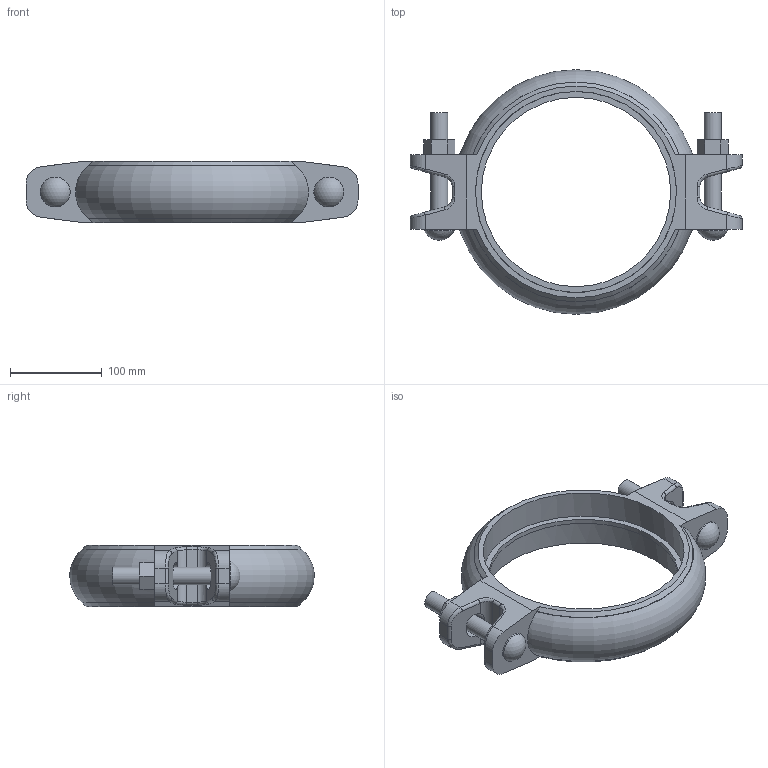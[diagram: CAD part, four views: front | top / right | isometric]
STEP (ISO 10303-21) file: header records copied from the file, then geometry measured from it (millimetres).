
FILE_DESCRIPTION(/* description */ ('QUICKVIC RIGID COUPLING FOR STEEL STYLE 107N','CAx-IF Rec.Pracs.---Representation and Presentation of Product Manufacturing Information (PMI)---4.0---2014-10-13'),/* implementation_level */ '2;1');
FILE_NAME(/* name */ 'C:\Users\Vjadhav\Desktop\CAD for Inventor\1\Coupling bolt thickness\107N\STEP\Victaulic_IPS_Coupling Rigid_Style 107N (OGS)\Victaulic_IPS_Coupling Rigid_Style 107N (OGS)_8 (200).stp',/* time_stamp */ '2022-03-28T14:19:43+06:00',/* author */ ('jheald'),/* organization */ ('Victaulic'),/* preprocessor_version */ 'ST-DEVELOPER v17.2',/* originating_system */ 'Autodesk Inventor 2019',/* authorisation */ '');
FILE_SCHEMA (('AP242_MANAGED_MODEL_BASED_3D_ENGINEERING_MIM_LF { 1 0 10303 442 1 1 4 }'));
Length unit declared in the file: inch
Products named in the file (1): 107N-08.0
Bounding box: 361.95 x 266.65 x 66.8 mm (x, y, z)
Volume: 1290879.8 mm3; surface area: 179421.4 mm2
Topology: 1 solids, 1 shells, 123 faces, 327 edges, 210 vertices
Faces by surface type: plane 50, cylinder 45, bspline 16, torus 6, cone 4, sphere 2
Full cylindrical faces by diameter (mm): 19.05 x4, 32.537 x2, 206.375 x1, 219.075 x2
Entity records: 4713 total; most frequent: CARTESIAN_POINT 1367, DIRECTION 675, ORIENTED_EDGE 654, EDGE_CURVE 327, AXIS2_PLACEMENT_3D 255, VERTEX_POINT 210, LINE 165, VECTOR 165
